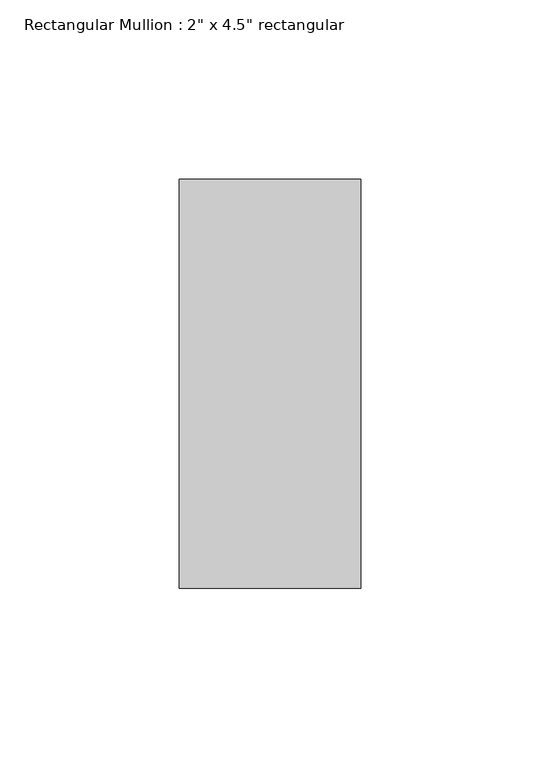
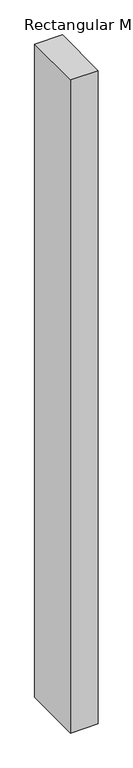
"""IFC4 building model written with IfcOpenShell, lengths in millimetres: member geometry."""

from ifc_helpers import new_model, si_unit, frame, origin, place, context, project, spatial, polyline, outline, extrude, source, transform, mapped, element, save


def member_e56bd8eb(model_context):
    return source(origin(), model_context, "Body", "SweptSolid", [
        extrude(outline(polyline([(0.0, 57.15), (0.0, -57.15), (-50.8, -57.15), (-50.8, 57.15), (0.0, 57.15)])), frame((0.0, 0.0, -1268.9957216), z_axis=(0.0, 0.0, 1.0), x_axis=(1.0, 0.0, 0.0)), (0.0, 0.0, 1.0), 1268.9957216),
    ])


if __name__ == "__main__":
    model = new_model("IFC4")
    model_context = context("Model", 3, world=origin())
    ifc_project = project(units=[si_unit("LENGTHUNIT", "METRE", prefix="MILLI")], contexts=[model_context])
    site = spatial("IfcSite", under=ifc_project)
    building = spatial("IfcBuilding", under=site)
    placement = place(None, origin())
    member_shape = member_e56bd8eb(model_context)
    element("IfcMember", 1, ObjectType="Rectangular Mullion : 2\" x 4.5\" rectangular", at=placement, inside=building, context=model_context, shape_type="MappedRepresentation", body=[
        mapped(member_shape, transform((0.0, 0.0, 0.0), x_axis=(1.0, 0.0, 0.0), y_axis=(0.0, 1.0, 0.0), z_axis=(0.0, 0.0, 1.0))),
    ])
    save(model, "model.ifc")
